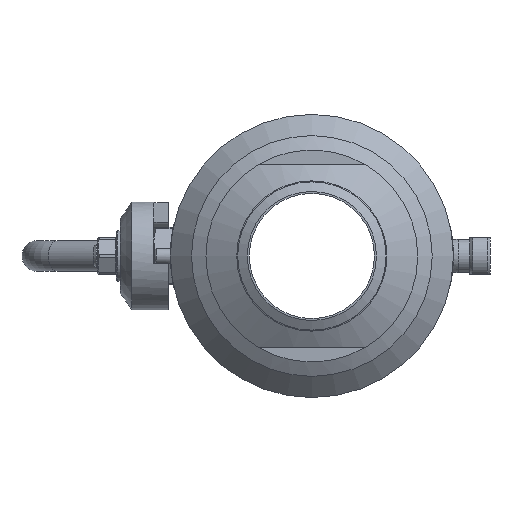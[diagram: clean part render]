
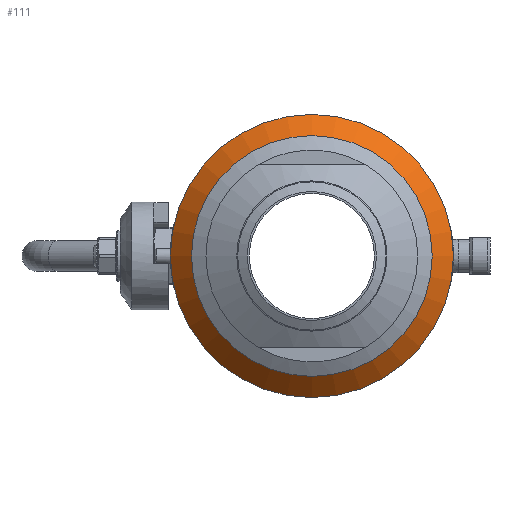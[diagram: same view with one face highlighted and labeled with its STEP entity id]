
A CAD part, left-side view. The second image highlights one B-rep face of the part: STEP entity #111.
In plain terms, the highlighted conical face has half-angle 45 degrees and reference radius 68 mm.
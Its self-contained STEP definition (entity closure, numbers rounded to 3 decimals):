
#111=ADVANCED_FACE('',(#825),#827,.T.);
#825=FACE_OUTER_BOUND('',#826,.T.);
#826=EDGE_LOOP('',(#1976,#1977,#1978,#1979,#1980));
#827=CONICAL_SURFACE('',#828,68.,0.785);
#828=AXIS2_PLACEMENT_3D('',#829,#830,#831);
#829=CARTESIAN_POINT('',(-44.5,0.,0.));
#830=DIRECTION('',(1.,0.,0.));
#831=DIRECTION('',(0.,1.,0.));
#1976=ORIENTED_EDGE('',*,*,#3144,.F.);
#1977=ORIENTED_EDGE('',*,*,#3145,.F.);
#1978=ORIENTED_EDGE('',*,*,#3122,.F.);
#1979=ORIENTED_EDGE('',*,*,#3145,.T.);
#1980=ORIENTED_EDGE('',*,*,#3146,.F.);
#3122=EDGE_CURVE('',#3461,#3461,#3463,.T.);
#3144=EDGE_CURVE('',#3498,#3499,#3500,.F.);
#3145=EDGE_CURVE('',#3461,#3498,#3501,.T.);
#3146=EDGE_CURVE('',#3499,#3498,#3502,.F.);
#3461=VERTEX_POINT('',#4584);
#3463=CIRCLE('',#4588,73.5);
#3498=VERTEX_POINT('',#5074);
#3499=VERTEX_POINT('',#5075);
#3500=CIRCLE('',#5076,62.5);
#3501=LINE('',#5080,#5081);
#3502=CIRCLE('',#5083,62.5);
#4584=CARTESIAN_POINT('',(-39.,73.5,0.));
#4588=AXIS2_PLACEMENT_3D('',#4589,#4590,#4591);
#4589=CARTESIAN_POINT('',(-39.,0.,0.));
#4590=DIRECTION('',(1.,0.,-0.));
#4591=DIRECTION('',(0.,1.,0.));
#5074=CARTESIAN_POINT('',(-50.,62.5,0.));
#5075=CARTESIAN_POINT('',(-50.,-62.5,0.));
#5076=AXIS2_PLACEMENT_3D('',#5077,#5078,#5079);
#5077=CARTESIAN_POINT('',(-50.,0.,0.));
#5078=DIRECTION('',(1.,0.,-0.));
#5079=DIRECTION('',(0.,-1.,0.));
#5080=CARTESIAN_POINT('',(-39.,73.5,0.));
#5081=VECTOR('',#5082,1.);
#5082=DIRECTION('',(-0.707,-0.707,0.));
#5083=AXIS2_PLACEMENT_3D('',#5084,#5085,#5086);
#5084=CARTESIAN_POINT('',(-50.,0.,0.));
#5085=DIRECTION('',(1.,0.,-0.));
#5086=DIRECTION('',(0.,1.,0.));
